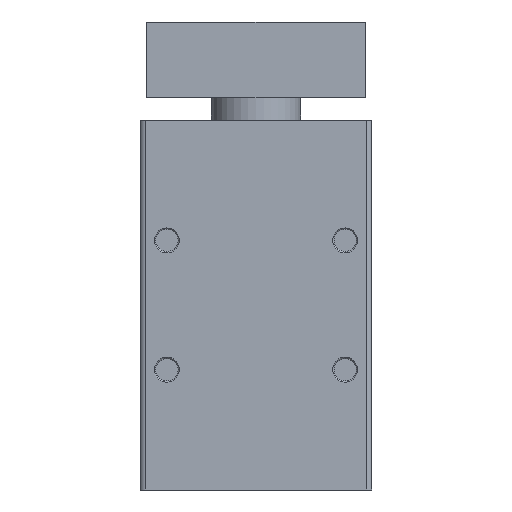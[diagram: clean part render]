
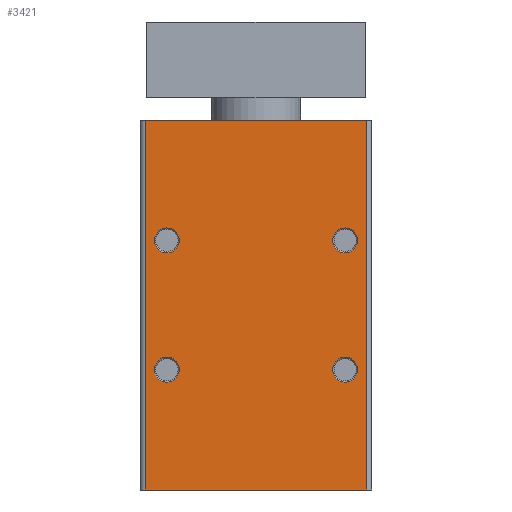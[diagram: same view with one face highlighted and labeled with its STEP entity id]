
A CAD part, front view. The second image highlights one B-rep face of the part: STEP entity #3421.
In plain terms, the highlighted planar face has unit normal (0, -1, 0).
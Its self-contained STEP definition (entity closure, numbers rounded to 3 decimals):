
#564=CARTESIAN_POINT('',(24.8,-62.,-88.0));
#565=VERTEX_POINT('',#564);
#573=CARTESIAN_POINT('',(-24.8,-62.,-88.0));
#574=VERTEX_POINT('',#573);
#575=CARTESIAN_POINT('',(-24.8,-62.,-88.0));
#576=DIRECTION('',(1.0,0.0,0.0));
#577=VECTOR('',#576,49.6);
#578=LINE('',#575,#577);
#579=EDGE_CURVE('',#574,#565,#578,.T.);
#2508=CARTESIAN_POINT('',(-24.8,-62.,-5.0));
#2509=VERTEX_POINT('',#2508);
#2517=CARTESIAN_POINT('',(24.8,-62.,-5.0));
#2518=VERTEX_POINT('',#2517);
#2519=CARTESIAN_POINT('',(24.8,-62.,-5.0));
#2520=DIRECTION('',(-1.0,0.0,0.0));
#2521=VECTOR('',#2520,49.6);
#2522=LINE('',#2519,#2521);
#2523=EDGE_CURVE('',#2518,#2509,#2522,.T.);
#3352=CARTESIAN_POINT('',(-17.2,-62.,-32.0));
#3353=VERTEX_POINT('',#3352);
#3354=CARTESIAN_POINT('',(-20.,-62.,-32.0));
#3355=DIRECTION('',(0.0,-1.0,0.0));
#3356=DIRECTION('',(-1.0,0.0,0.0));
#3357=AXIS2_PLACEMENT_3D('',#3354,#3355,#3356);
#3358=CIRCLE('',#3357,2.8);
#3359=EDGE_CURVE('',#3353,#3353,#3358,.T.);
#3364=CARTESIAN_POINT('',(-24.8,-62.,-5.0));
#3365=DIRECTION('',(0.0,-1.0,0.0));
#3366=DIRECTION('',(0.0,0.0,-1.0));
#3367=AXIS2_PLACEMENT_3D('',#3364,#3365,#3366);
#3368=PLANE('',#3367);
#3369=ORIENTED_EDGE('',*,*,#579,.T.);
#3370=CARTESIAN_POINT('',(24.8,-62.,-5.0));
#3371=DIRECTION('',(0.0,0.0,-1.0));
#3372=VECTOR('',#3371,83.0);
#3373=LINE('',#3370,#3372);
#3374=EDGE_CURVE('',#2518,#565,#3373,.T.);
#3375=ORIENTED_EDGE('',*,*,#3374,.F.);
#3376=ORIENTED_EDGE('',*,*,#2523,.T.);
#3377=CARTESIAN_POINT('',(-24.8,-62.,-5.0));
#3378=DIRECTION('',(0.0,0.0,-1.0));
#3379=VECTOR('',#3378,83.0);
#3380=LINE('',#3377,#3379);
#3381=EDGE_CURVE('',#2509,#574,#3380,.T.);
#3382=ORIENTED_EDGE('',*,*,#3381,.T.);
#3383=EDGE_LOOP('',(#3369,#3375,#3376,#3382));
#3384=FACE_OUTER_BOUND('',#3383,.T.);
#3385=CARTESIAN_POINT('',(-17.2,-62.,-61.0));
#3386=VERTEX_POINT('',#3385);
#3387=CARTESIAN_POINT('',(-20.,-62.,-61.0));
#3388=DIRECTION('',(0.0,-1.0,0.0));
#3389=DIRECTION('',(-1.0,0.0,0.0));
#3390=AXIS2_PLACEMENT_3D('',#3387,#3388,#3389);
#3391=CIRCLE('',#3390,2.8);
#3392=EDGE_CURVE('',#3386,#3386,#3391,.T.);
#3393=ORIENTED_EDGE('',*,*,#3392,.F.);
#3394=EDGE_LOOP('',(#3393));
#3395=FACE_BOUND('',#3394,.T.);
#3396=CARTESIAN_POINT('',(22.8,-62.,-32.0));
#3397=VERTEX_POINT('',#3396);
#3398=CARTESIAN_POINT('',(20.,-62.,-32.0));
#3399=DIRECTION('',(0.0,-1.0,0.0));
#3400=DIRECTION('',(-1.0,0.0,0.0));
#3401=AXIS2_PLACEMENT_3D('',#3398,#3399,#3400);
#3402=CIRCLE('',#3401,2.8);
#3403=EDGE_CURVE('',#3397,#3397,#3402,.T.);
#3404=ORIENTED_EDGE('',*,*,#3403,.F.);
#3405=EDGE_LOOP('',(#3404));
#3406=FACE_BOUND('',#3405,.T.);
#3407=CARTESIAN_POINT('',(22.8,-62.,-61.0));
#3408=VERTEX_POINT('',#3407);
#3409=CARTESIAN_POINT('',(20.,-62.,-61.0));
#3410=DIRECTION('',(0.0,-1.0,0.0));
#3411=DIRECTION('',(-1.0,0.0,0.0));
#3412=AXIS2_PLACEMENT_3D('',#3409,#3410,#3411);
#3413=CIRCLE('',#3412,2.8);
#3414=EDGE_CURVE('',#3408,#3408,#3413,.T.);
#3415=ORIENTED_EDGE('',*,*,#3414,.F.);
#3416=EDGE_LOOP('',(#3415));
#3417=FACE_BOUND('',#3416,.T.);
#3418=ORIENTED_EDGE('',*,*,#3359,.F.);
#3419=EDGE_LOOP('',(#3418));
#3420=FACE_BOUND('',#3419,.T.);
#3421=ADVANCED_FACE('',(#3384,#3395,#3406,#3417,#3420),#3368,.T.);
